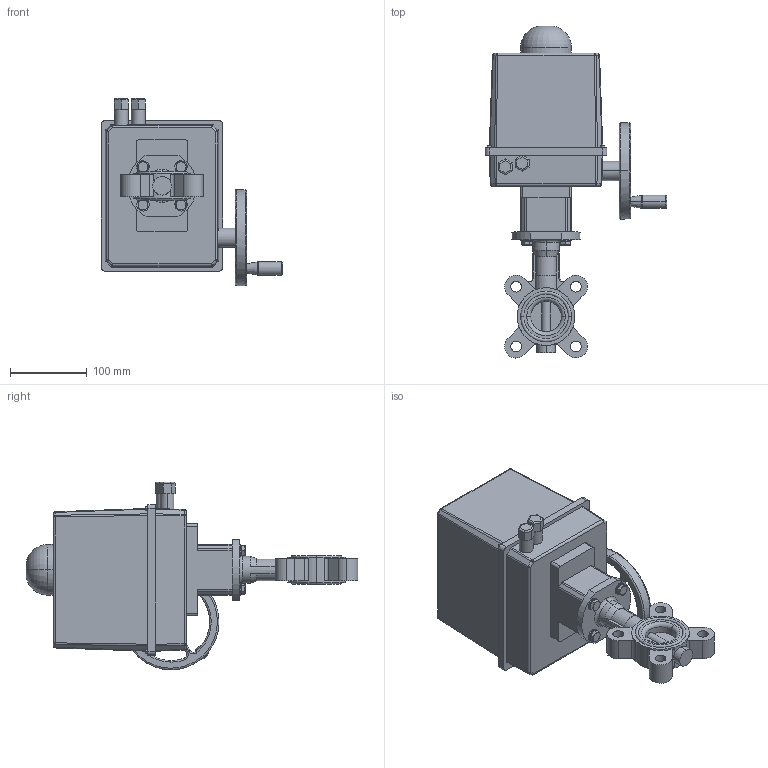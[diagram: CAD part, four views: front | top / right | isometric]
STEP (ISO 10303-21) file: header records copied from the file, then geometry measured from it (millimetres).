
FILE_DESCRIPTION (( 'STEP AP214' ), '1' );
FILE_NAME ('TL20-7-PSQ-DN0040.STEP', '2020-10-28T14:37:40', ( '' ), ( '' ), 'SwSTEP 2.0', 'SolidWorks 2019', '' );
FILE_SCHEMA (( 'AUTOMOTIVE_DESIGN' ));
Length unit declared in the file: millimetre
Products named in the file (6): TL20-7-PSQ-DN0040; TL20-0040_M05; Steckkupplung PSQ 103_PSQ 103 VK-11; 6kt-Schr DIN 933_M8x25; U-Scheibe DIN 125 A_M8; PSQ 103_PSQ 103-36-24VDC-F07
Assembly tree (11 placements, depth 2):
  TL20-7-PSQ-DN0040
    TL20-0040_M05
    PSQ 103_PSQ 103-36-24VDC-F07
    Steckkupplung PSQ 103_PSQ 103 VK-11
    6kt-Schr DIN 933_M8x25  x4
    U-Scheibe DIN 125 A_M8  x4
Bounding box: 236 x 431.87 x 244 mm (x, y, z)
Volume: 5397917.7 mm3; surface area: 304500 mm2
Topology: 11 solids, 11 shells, 793 faces, 2029 edges, 1256 vertices
Faces by surface type: cylinder 333, plane 318, torus 64, cone 56, sphere 16, bspline 6
Entity records: 25555 total; most frequent: CARTESIAN_POINT 4636, DIRECTION 3849, ORIENTED_EDGE 3578, EDGE_CURVE 1789, AXIS2_PLACEMENT_3D 1453, VERTEX_POINT 1136, LINE 943, VECTOR 943
